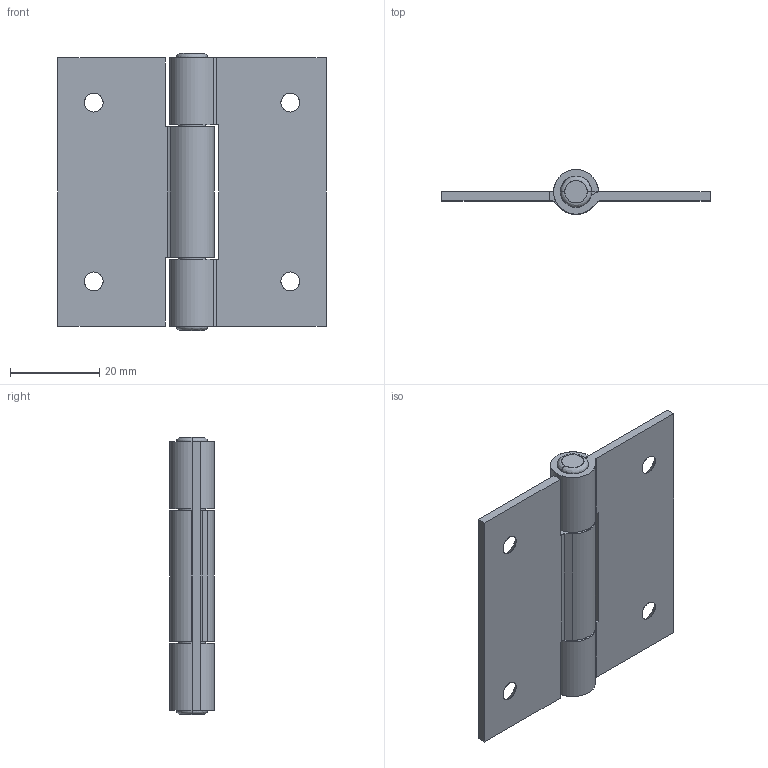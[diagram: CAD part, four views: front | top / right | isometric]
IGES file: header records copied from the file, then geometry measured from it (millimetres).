
Start section: SolidWorks IGES file using analytic representation for surfaces
Global section: file name: Z:\Mes documents\ATAO iges\Gamme CC\CC 485\cc 485.IGS; native system: SolidWorks 2013; preprocessor: SolidWorks 2013; author: cbrechard; date: 151124.181407; units: millimetre
Bounding box: 60 x 9.99 x 62 mm (x, y, z)
Surface area: 11002.1 mm2 (no closed solid volume)
Topology: 0 solids, 0 shells, 62 faces, 1140 edges, 1140 vertices
Faces by surface type: bspline 34, revolution 28
